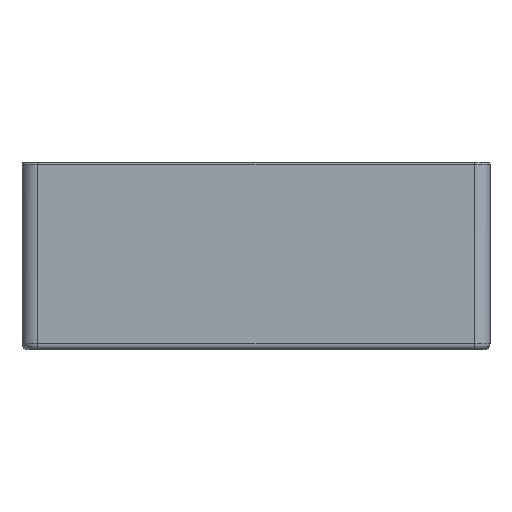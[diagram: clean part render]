
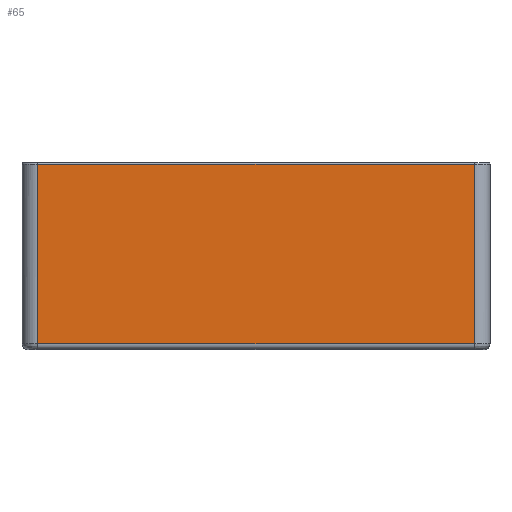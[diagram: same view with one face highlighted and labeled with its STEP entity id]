
A CAD part, left-side view. The second image highlights one B-rep face of the part: STEP entity #65.
In plain terms, the highlighted planar face has unit normal (-1, 0, 0).
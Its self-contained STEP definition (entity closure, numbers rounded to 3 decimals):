
#65=ADVANCED_FACE('',(#315),#3413,.T.);
#315=FACE_OUTER_BOUND('',#565,.T.);
#565=EDGE_LOOP('',(#934,#935,#936,#937));
#934=ORIENTED_EDGE('',*,*,#2020,.T.);
#935=ORIENTED_EDGE('',*,*,#2027,.F.);
#936=ORIENTED_EDGE('',*,*,#2028,.T.);
#937=ORIENTED_EDGE('',*,*,#2016,.F.);
#2016=EDGE_CURVE('',#3133,#3138,#2749,.T.);
#2020=EDGE_CURVE('',#3133,#3139,#2750,.T.);
#2027=EDGE_CURVE('',#3144,#3139,#2757,.T.);
#2028=EDGE_CURVE('',#3144,#3138,#2758,.T.);
#2749=B_SPLINE_CURVE_WITH_KNOTS('',1,(#13733,#13734),.UNSPECIFIED.,.F.,
 .F.,(2,2),(0.,280.),.UNSPECIFIED.);
#2750=B_SPLINE_CURVE_WITH_KNOTS('',1,(#13744,#13745),.UNSPECIFIED.,.F.,
 .F.,(2,2),(1.,116.),.UNSPECIFIED.);
#2757=B_SPLINE_CURVE_WITH_KNOTS('',1,(#13758,#13759),.UNSPECIFIED.,.F.,
 .F.,(2,2),(0.,280.),.UNSPECIFIED.);
#2758=B_SPLINE_CURVE_WITH_KNOTS('',1,(#13760,#13761),.UNSPECIFIED.,.F.,
 .F.,(2,2),(4.,119.),.UNSPECIFIED.);
#3133=VERTEX_POINT('',#13069);
#3138=VERTEX_POINT('',#13074);
#3139=VERTEX_POINT('',#13075);
#3144=VERTEX_POINT('',#13080);
#3413=PLANE('',#3762);
#3762=AXIS2_PLACEMENT_3D('',#4853,#3869,$);
#3869=DIRECTION('',(-1.,0.,0.));
#4853=CARTESIAN_POINT('',(5303.235,26.935,0.));
#13069=CARTESIAN_POINT('',(5303.235,16.935,119.));
#13074=CARTESIAN_POINT('',(5303.235,-263.065,119.));
#13075=CARTESIAN_POINT('',(5303.235,16.935,4.));
#13080=CARTESIAN_POINT('',(5303.235,-263.065,4.));
#13733=CARTESIAN_POINT('',(5303.235,16.935,119.));
#13734=CARTESIAN_POINT('',(5303.235,-263.065,119.));
#13744=CARTESIAN_POINT('',(5303.235,16.935,119.));
#13745=CARTESIAN_POINT('',(5303.235,16.935,4.));
#13758=CARTESIAN_POINT('',(5303.235,-263.065,4.));
#13759=CARTESIAN_POINT('',(5303.235,16.935,4.));
#13760=CARTESIAN_POINT('',(5303.235,-263.065,4.));
#13761=CARTESIAN_POINT('',(5303.235,-263.065,119.));
